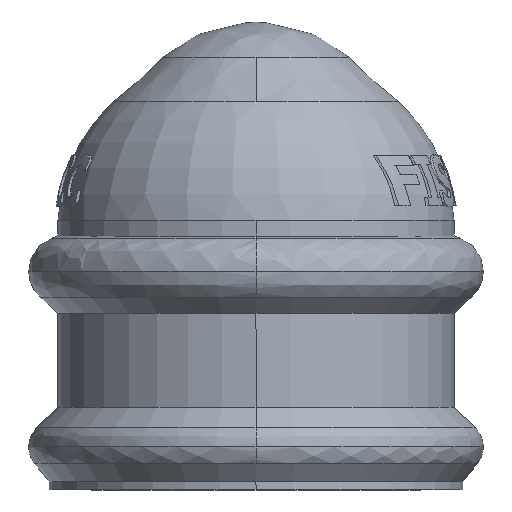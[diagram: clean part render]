
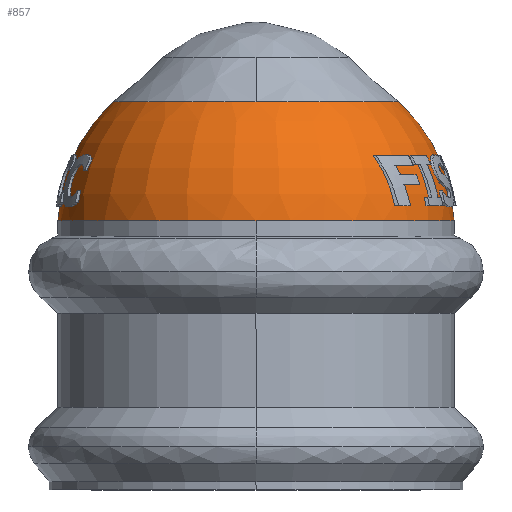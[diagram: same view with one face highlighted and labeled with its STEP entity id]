
A CAD part, left-side view. The second image highlights one B-rep face of the part: STEP entity #857.
In plain terms, the highlighted toroidal (fillet/blend) face has major radius 1.093 mm and minor radius 6 mm.
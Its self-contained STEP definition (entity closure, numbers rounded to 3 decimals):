
#188 = FACE_OUTER_BOUND ( 'NONE', #7038, .T. ) ;
#255 = DIRECTION ( 'NONE',  ( 0., 0., -1. ) ) ;
#277 = AXIS2_PLACEMENT_3D ( 'NONE', #3342, #6120, #1563 ) ;
#455 = DIRECTION ( 'NONE',  ( -1., 0., 0. ) ) ;
#484 = CARTESIAN_POINT ( 'NONE',  ( 53.926, -0.403, 13.901 ) ) ;
#662 = CARTESIAN_POINT ( 'NONE',  ( 46.837, -0.403, 9.641 ) ) ;
#743 = CARTESIAN_POINT ( 'NONE',  ( 53.926, -7.492, 9.641 ) ) ;
#857 = ADVANCED_FACE ( 'NONE', ( #188 ), #947, .T. ) ;
#947 = TOROIDAL_SURFACE ( 'NONE', #5044, 1.093, 6. ) ;
#1027 = CARTESIAN_POINT ( 'NONE',  ( 53.926, -0.403, 13.901 ) ) ;
#1176 = EDGE_CURVE ( 'NONE', #6961, #4562, #4151, .T. ) ;
#1209 = CIRCLE ( 'NONE', #7197, 5.096 ) ;
#1300 = ORIENTED_EDGE ( 'NONE', *, *, #5955, .T. ) ;
#1366 = EDGE_CURVE ( 'NONE', #4503, #4253, #6860, .T. ) ;
#1436 = DIRECTION ( 'NONE',  ( 0., 0., 1. ) ) ;
#1563 = DIRECTION ( 'NONE',  ( 0., 1., 0. ) ) ;
#1688 = CARTESIAN_POINT ( 'NONE',  ( 48.83, -0.403, 13.901 ) ) ;
#2372 = AXIS2_PLACEMENT_3D ( 'NONE', #3418, #4603, #6832 ) ;
#2394 = CIRCLE ( 'NONE', #6992, 5.096 ) ;
#2480 = DIRECTION ( 'NONE',  ( 0., 1., 0. ) ) ;
#2592 = DIRECTION ( 'NONE',  ( -1., 0., 0. ) ) ;
#2706 = DIRECTION ( 'NONE',  ( 0., 0., -1. ) ) ;
#2912 = CARTESIAN_POINT ( 'NONE',  ( 53.926, -0.403, 9.432 ) ) ;
#3118 = DIRECTION ( 'NONE',  ( 0., 0., -1. ) ) ;
#3159 = EDGE_CURVE ( 'NONE', #6958, #6245, #2394, .T. ) ;
#3287 = ORIENTED_EDGE ( 'NONE', *, *, #1366, .F. ) ;
#3342 = CARTESIAN_POINT ( 'NONE',  ( 53.926, -1.496, 9.432 ) ) ;
#3418 = CARTESIAN_POINT ( 'NONE',  ( 53.926, -0.403, 9.641 ) ) ;
#3535 = ORIENTED_EDGE ( 'NONE', *, *, #4801, .T. ) ;
#3555 = AXIS2_PLACEMENT_3D ( 'NONE', #4783, #7041, #4239 ) ;
#4003 = CARTESIAN_POINT ( 'NONE',  ( 53.926, -5.498, 13.901 ) ) ;
#4151 = CIRCLE ( 'NONE', #2372, 7.089 ) ;
#4239 = DIRECTION ( 'NONE',  ( 0., -1., 0. ) ) ;
#4253 = VERTEX_POINT ( 'NONE', #743 ) ;
#4359 = CARTESIAN_POINT ( 'NONE',  ( 53.926, 4.693, 13.901 ) ) ;
#4366 = CIRCLE ( 'NONE', #5310, 6. ) ;
#4386 = EDGE_CURVE ( 'NONE', #4503, #6958, #1209, .T. ) ;
#4503 = VERTEX_POINT ( 'NONE', #4003 ) ;
#4562 = VERTEX_POINT ( 'NONE', #662 ) ;
#4603 = DIRECTION ( 'NONE',  ( 0., 0., 1. ) ) ;
#4781 = ORIENTED_EDGE ( 'NONE', *, *, #4386, .T. ) ;
#4783 = CARTESIAN_POINT ( 'NONE',  ( 53.926, -0.403, 9.641 ) ) ;
#4801 = EDGE_CURVE ( 'NONE', #6245, #6961, #4366, .T. ) ;
#5019 = CARTESIAN_POINT ( 'NONE',  ( 53.926, 6.687, 9.641 ) ) ;
#5044 = AXIS2_PLACEMENT_3D ( 'NONE', #2912, #255, #2480 ) ;
#5310 = AXIS2_PLACEMENT_3D ( 'NONE', #5400, #2592, #1436 ) ;
#5400 = CARTESIAN_POINT ( 'NONE',  ( 53.926, 0.69, 9.432 ) ) ;
#5409 = DIRECTION ( 'NONE',  ( -1., 0., 0. ) ) ;
#5955 = EDGE_CURVE ( 'NONE', #4562, #4253, #6743, .T. ) ;
#6120 = DIRECTION ( 'NONE',  ( 1., 0., 0. ) ) ;
#6245 = VERTEX_POINT ( 'NONE', #4359 ) ;
#6743 = CIRCLE ( 'NONE', #3555, 7.089 ) ;
#6832 = DIRECTION ( 'NONE',  ( 0., -1., 0. ) ) ;
#6860 = CIRCLE ( 'NONE', #277, 6. ) ;
#6958 = VERTEX_POINT ( 'NONE', #1688 ) ;
#6961 = VERTEX_POINT ( 'NONE', #5019 ) ;
#6992 = AXIS2_PLACEMENT_3D ( 'NONE', #484, #2706, #455 ) ;
#6999 = ORIENTED_EDGE ( 'NONE', *, *, #1176, .T. ) ;
#7038 = EDGE_LOOP ( 'NONE', ( #3287, #4781, #7232, #3535, #6999, #1300 ) ) ;
#7041 = DIRECTION ( 'NONE',  ( 0., 0., 1. ) ) ;
#7197 = AXIS2_PLACEMENT_3D ( 'NONE', #1027, #3118, #5409 ) ;
#7232 = ORIENTED_EDGE ( 'NONE', *, *, #3159, .T. ) ;
